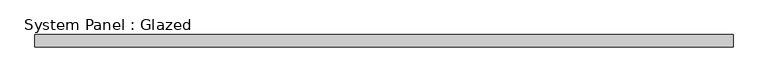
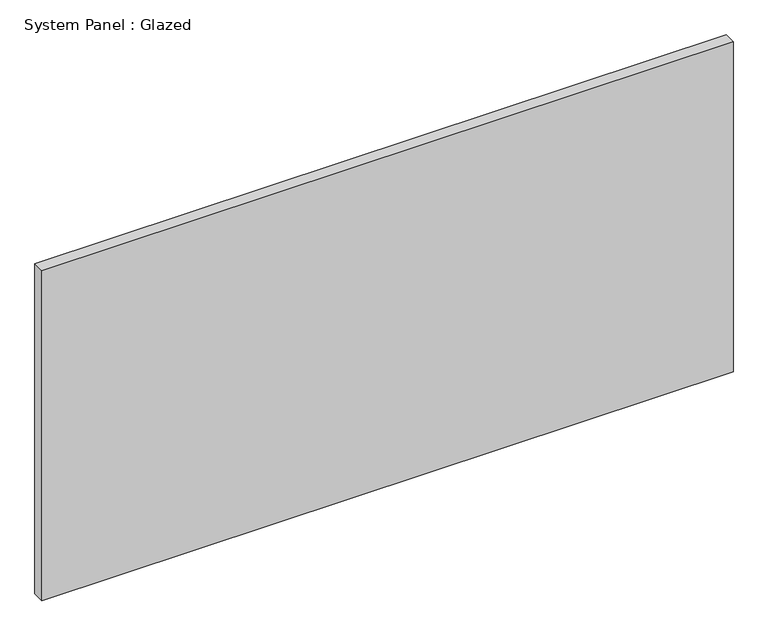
"""IFC4 building model written with IfcOpenShell, lengths in millimetres: plate geometry, System Panel : Glazed."""

from ifc_helpers import new_model, si_unit, origin, origin_with_axes, place, context, project, spatial, polyline, outline, extrude, source, transform, mapped, element, save


def system_panel_glazed_09cd312b(model_context):
    return source(origin(), model_context, "Body", "SweptSolid", [
        extrude(outline(polyline([(718.0555555, -49.5), (-718.0555555, -49.5), (-718.0555555, -24.5), (718.0555555, -24.5), (718.0555555, -49.5)])), origin_with_axes(), (0.0, 0.0, 1.0), 725.0),
    ])


if __name__ == "__main__":
    model = new_model("IFC4")
    model_context = context("Model", 3, world=origin())
    ifc_project = project(units=[si_unit("LENGTHUNIT", "METRE", prefix="MILLI")], contexts=[model_context])
    site = spatial("IfcSite", under=ifc_project)
    building = spatial("IfcBuilding", under=site)
    placement = place(None, origin())
    system_panel_glazed_shape = system_panel_glazed_09cd312b(model_context)
    element("IfcPlate", 1, ObjectType="System Panel : Glazed", at=placement, inside=building, context=model_context, shape_type="MappedRepresentation", body=[
        mapped(system_panel_glazed_shape, transform((0.0, 0.0, 0.0), x_axis=(1.0, 0.0, 0.0), y_axis=(0.0, 1.0, 0.0), z_axis=(0.0, 0.0, 1.0))),
    ])
    save(model, "model.ifc")
